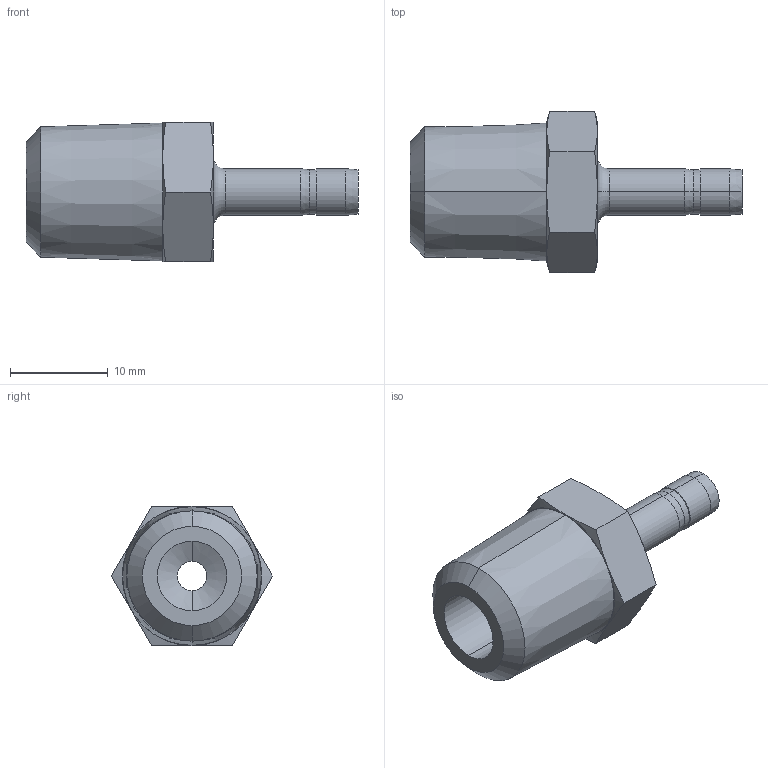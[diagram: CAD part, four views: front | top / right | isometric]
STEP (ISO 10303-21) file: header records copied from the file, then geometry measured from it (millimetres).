
FILE_DESCRIPTION (( 'STEP AP203' ), '1' );
FILE_NAME ('DHA03-04 SS.STEP', '2009-09-08T06:14:33', ( ' ' ), ( '' ), 'SwSTEP 2.0', 'SolidWorks 2008', '' );
FILE_SCHEMA (( 'CONFIG_CONTROL_DESIGN' ));
Length unit declared in the file: millimetre
Products named in the file (1): DHA03-04 SS
Bounding box: 34 x 16.5 x 14.29 mm (x, y, z)
Volume: 2458.5 mm3; surface area: 1853.9 mm2
Topology: 1 solids, 1 shells, 46 faces, 96 edges, 54 vertices
Faces by surface type: cone 24, cylinder 10, plane 10, torus 2
Entity records: 1317 total; most frequent: CARTESIAN_POINT 277, DIRECTION 210, ORIENTED_EDGE 192, EDGE_CURVE 96, AXIS2_PLACEMENT_3D 91, VERTEX_POINT 54, EDGE_LOOP 50, FACE_OUTER_BOUND 46
